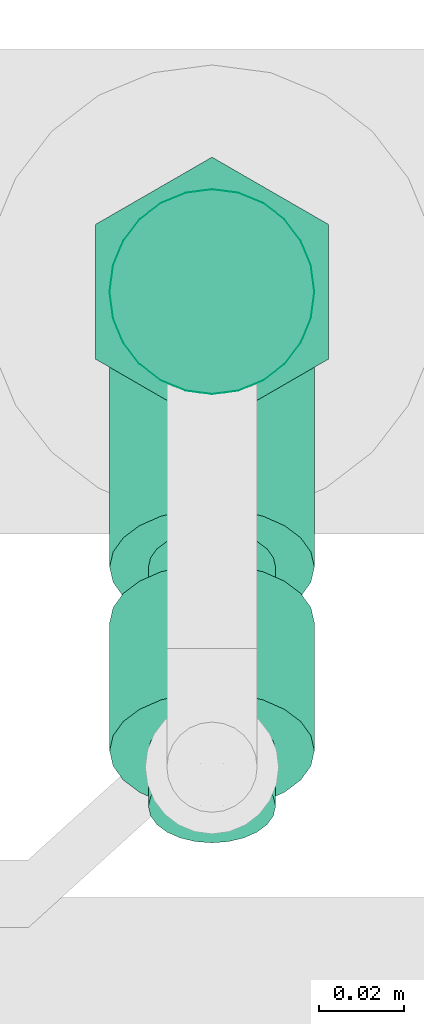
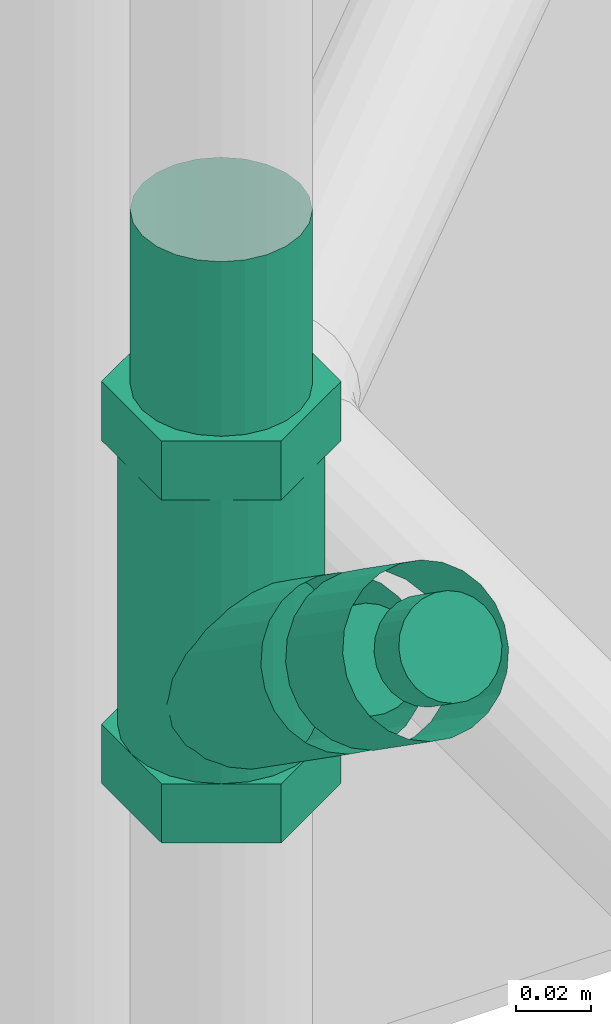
# One storey, part 258 of 374: 1 flow segment, 1 flow treatment device.
"""IFC2X3 building model written with IfcOpenShell, lengths in metres."""

from ifc_helpers import new_model, si_unit, direction, origin, place, context, subcontext, project, spatial, open_shell, surface_model, source, transform, mapped, element, save


model = new_model("IFC2X3")

# Units and contexts
model_context = context("Model", 3, precision=1e-05, world=origin(), true_north=direction((-0.4480736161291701, 0.8939966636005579)))
body_context = subcontext(model_context, "Body", "Model", "MODEL_VIEW")
ifc_project = project(units=[si_unit("LENGTHUNIT", "METRE"), si_unit("AREAUNIT", "SQUARE_METRE"), si_unit("VOLUMEUNIT", "CUBIC_METRE"), si_unit("PLANEANGLEUNIT", "RADIAN"), si_unit("THERMODYNAMICTEMPERATUREUNIT", "KELVIN"), si_unit("MASSUNIT", "GRAM", prefix="KILO"), si_unit("TIMEUNIT", "SECOND")], contexts=[model_context])

# Site, building, storey
site_placement = place(None, origin())
site = spatial("IfcSite", under=ifc_project, at=site_placement, Name="Site 1", CompositionType="ELEMENT")
building_placement = place(site_placement, origin())
building = spatial("IfcBuilding", under=site, at=building_placement, Name="Undefined", CompositionType="ELEMENT")
storey_placement = place(building_placement, origin())
storey = spatial("IfcBuildingStorey", under=building, at=storey_placement, Name="Rez de chauss\x8ee", CompositionType="ELEMENT", Elevation=0.0)

# Flow treatment device
shared_shape_1 = source(origin(), body_context, "Body", "SurfaceModel", [
    surface_model("IfcFaceBasedSurfaceModel", [(0.0, 0.006304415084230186, 7.105427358e-15), (0.0, 0.0, 0.0), (0.034486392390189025, 7.105427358e-15, -1.776356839e-15), (0.03290563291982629, 0.006304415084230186, 0.0), (0.0, -0.006089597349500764, -0.0016317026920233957), (0.039120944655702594, -0.006089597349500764, -0.0016317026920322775), (0.0, -0.011549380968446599, -0.004783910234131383), (0.0464934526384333, -0.011549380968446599, -0.004783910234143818), (0.0, -0.016007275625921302, -0.009241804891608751), (0.056101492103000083, -0.01600727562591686, -0.009241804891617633), (0.0, -0.01915948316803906, -0.014701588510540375), (0.06729029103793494, -0.019159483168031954, -0.014701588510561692), (0.0, -0.020791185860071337, -0.020791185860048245), (0.07929735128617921, -0.02079118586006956, -0.020791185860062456), (0.0, -0.020791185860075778, -0.027095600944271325), (0.07604355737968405, -0.020791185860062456, -0.02709560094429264), (0.0, -0.01915948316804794, -0.03318519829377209), (0.07301150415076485, -0.019159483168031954, -0.03318519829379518), (0.0, -0.01600727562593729, -0.038644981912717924), (0.07040782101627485, -0.01600727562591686, -0.038644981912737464), (0.0, -0.011549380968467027, -0.0431028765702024), (0.06840994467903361, -0.011549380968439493, -0.043102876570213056), (0.0, -0.006089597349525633, -0.04625508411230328), (0.06715402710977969, -0.006089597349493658, -0.04625508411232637), (0.0, -2.4868995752e-14, -0.04788678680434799), (0.06672565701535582, 7.105427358e-15, -0.0478867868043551), (0.0, 0.006304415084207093, -0.047886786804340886), (0.06715402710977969, 0.0063044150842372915, -0.0478867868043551), (0.0, 0.012394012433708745, -0.046255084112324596), (0.06840994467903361, 0.01239401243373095, -0.04625508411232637), (0.0, 0.01785379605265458, -0.0431028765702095), (0.07040782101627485, 0.017853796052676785, -0.04310287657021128), (0.0, 0.022311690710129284, -0.03864498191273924), (0.07301150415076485, 0.022311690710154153, -0.03864498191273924), (0.0, 0.02546389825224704, -0.03318519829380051), (0.07604355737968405, 0.02546389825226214, -0.033185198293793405), (0.0, 0.02709560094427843, -0.027095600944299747), (0.07929735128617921, 0.02709560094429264, -0.027095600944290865), (0.0, 0.02709560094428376, -0.02079118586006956), (0.06729029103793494, 0.02709560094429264, -0.020791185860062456), (0.0, 0.025463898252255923, -0.014701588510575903), (0.056101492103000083, 0.025463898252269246, -0.014701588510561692), (0.0, 0.02231169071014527, -0.009241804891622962), (0.0464934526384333, 0.022311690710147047, -0.009241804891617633), (0.0, 0.01785379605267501, -0.004783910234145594), (0.039120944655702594, 0.01785379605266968, -0.004783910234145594), (0.0, 0.012394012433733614, -0.0016317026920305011), (0.034486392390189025, 0.012394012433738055, -0.0016317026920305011), (0.11106486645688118, -0.026421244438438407, -0.03789037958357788), (0.08505329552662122, -0.02879858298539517, -0.055948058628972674), (0.07409798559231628, -0.026756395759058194, -0.04043610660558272), (0.10010955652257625, -0.02437905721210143, -0.02237842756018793), (0.12407065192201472, 0.0020321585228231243, -0.03245101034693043), (0.1131153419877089, 0.004074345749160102, -0.01693905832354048), (0.11106486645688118, 0.02810822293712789, -0.045069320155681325), (0.10010955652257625, 0.03015041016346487, -0.029557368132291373), (0.08505329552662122, 0.025730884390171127, -0.06312699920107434), (0.07409798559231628, 0.027773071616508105, -0.047615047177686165), (0.07204751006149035, -0.0027225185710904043, -0.06856636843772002), (0.061092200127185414, -0.0006803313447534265, -0.05305441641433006), (0.08710377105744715, 0.028961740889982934, -0.03858620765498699), (0.0812734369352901, 0.02749985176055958, -0.042511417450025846), (0.02861912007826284, 0.037315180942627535, 0.03204340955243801), (0.03444945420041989, 0.03877707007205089, 0.03596861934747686), (0.07584043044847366, 0.02427954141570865, -0.04592451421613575), (0.0231861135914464, 0.034094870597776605, 0.028630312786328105), (0.07117500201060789, 0.0195202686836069, -0.04859290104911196), (0.01852068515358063, 0.029335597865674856, 0.025961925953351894), (0.06759509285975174, 0.01354637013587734, -0.05033473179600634), (0.014940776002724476, 0.023361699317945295, 0.024220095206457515), (0.06534466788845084, 0.006764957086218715, -0.05103130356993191), (0.012690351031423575, 0.01658028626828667, 0.023523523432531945), (0.06457708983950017, -0.00036182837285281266, -0.050635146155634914), (0.011922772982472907, 0.009453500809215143, 0.02391968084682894), (0.06534466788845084, -0.00734830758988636, -0.04917325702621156), (0.012690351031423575, 0.0024670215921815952, 0.025381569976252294), (0.06759509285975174, -0.013718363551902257, -0.04674526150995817), (0.014940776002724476, -0.0039030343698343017, 0.02780956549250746), (0.07117500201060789, -0.019037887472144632, -0.043516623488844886), (0.01852068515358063, -0.009222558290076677, 0.031038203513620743), (0.07584043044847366, -0.02294436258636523, -0.03970736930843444), (0.0231861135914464, -0.013129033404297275, 0.034847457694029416), (0.0812734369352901, -0.025171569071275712, -0.035577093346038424), (0.02861912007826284, -0.015356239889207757, 0.03897773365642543), (0.08710377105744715, -0.025567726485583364, -0.0314072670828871), (0.03444945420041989, -0.01575239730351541, 0.043147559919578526), (0.09293410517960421, -0.024105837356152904, -0.02748205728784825), (0.04027978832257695, -0.014290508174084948, 0.04707276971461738), (0.09836711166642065, -0.020885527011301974, -0.024068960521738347), (0.04571279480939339, -0.011070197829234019, 0.050485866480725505), (0.10303254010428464, -0.016126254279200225, -0.021400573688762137), (0.05037822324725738, -0.0063109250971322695, 0.05315425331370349), (0.10661244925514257, -0.010152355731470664, -0.019658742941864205), (0.05395813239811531, -0.00033702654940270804, 0.05489608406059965), (0.10886287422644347, -0.0033709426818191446, -0.018962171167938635), (0.05620855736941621, 0.006444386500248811, 0.05559265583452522), (0.10963045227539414, 0.0037558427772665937, -0.01935832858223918), (0.05697613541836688, 0.01357117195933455, 0.05519649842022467), (0.10886287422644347, 0.01074232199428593, -0.020820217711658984), (0.05620855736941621, 0.020557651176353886, 0.05373460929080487), (0.10661244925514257, 0.017112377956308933, -0.023248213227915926), (0.05395813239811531, 0.02692770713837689, 0.05130661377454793), (0.10303254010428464, 0.022431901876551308, -0.02647685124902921), (0.05037822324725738, 0.03224723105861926, 0.04807797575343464), (0.09836711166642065, 0.026338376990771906, -0.030286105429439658), (0.04571279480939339, 0.03615370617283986, 0.04426872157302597), (0.09293410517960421, 0.028565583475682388, -0.03441638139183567), (0.04027978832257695, 0.03838091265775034, 0.04013844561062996), (0.04745523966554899, -0.014563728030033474, 0.05217639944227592), (0.021443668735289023, -0.016941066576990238, 0.03411872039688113), (0.010488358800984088, -0.014898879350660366, 0.049630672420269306), (0.03649992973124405, -0.012521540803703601, 0.0676883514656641), (0.060461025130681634, 0.013889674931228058, 0.057615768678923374), (0.0495057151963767, 0.01593186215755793, 0.07312772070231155), (0.04745523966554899, 0.039965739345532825, 0.04499745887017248), (0.03649992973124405, 0.0420079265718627, 0.060509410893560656), (0.021443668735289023, 0.03758840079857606, 0.026939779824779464), (0.010488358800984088, 0.03963058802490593, 0.04245173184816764), (0.008437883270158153, 0.009134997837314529, 0.02150041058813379), (-0.0025174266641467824, 0.011177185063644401, 0.037012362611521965), (-1.776356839e-15, 0.01802388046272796, -0.025901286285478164), (-1.776356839e-15, 0.017010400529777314, -0.02968364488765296), (-0.01600000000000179, 0.017010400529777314, -0.029683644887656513), (-0.01600000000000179, 0.01802388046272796, -0.025901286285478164), (-1.776356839e-15, 0.015052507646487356, -0.033074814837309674), (-0.01600000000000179, 0.015052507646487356, -0.033074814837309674), (8.8817842e-16, 0.012283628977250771, -0.03584369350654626), (-0.016000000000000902, 0.012283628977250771, -0.03584369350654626), (-1.776356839e-15, 0.008892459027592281, -0.037801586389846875), (-0.01600000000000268, 0.008892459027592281, -0.037801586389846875), (-8.8817842e-16, 0.005110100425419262, -0.038815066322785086), (-0.016000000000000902, 0.005110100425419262, -0.038815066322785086), (-8.8817842e-16, 0.0011943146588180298, -0.03881506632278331), (-0.016000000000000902, 0.0011943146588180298, -0.03881506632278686), (-8.8817842e-16, -0.0025880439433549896, -0.03780158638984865), (-0.016000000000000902, -0.0025880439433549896, -0.03780158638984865), (-1.776356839e-15, -0.00597921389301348, -0.03584369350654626), (-0.01600000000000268, -0.00597921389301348, -0.03584369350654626), (8.8817842e-16, -0.00874809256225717, -0.0330748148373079), (-0.016000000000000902, -0.00874809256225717, -0.0330748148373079), (-1.776356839e-15, -0.010705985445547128, -0.029683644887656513), (-0.01600000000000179, -0.010705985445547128, -0.029683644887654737), (-1.776356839e-15, -0.011719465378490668, -0.025901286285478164), (-0.01600000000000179, -0.011719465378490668, -0.02590128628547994), (-1.776356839e-15, -0.011719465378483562, -0.021985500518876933), (-0.01600000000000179, -0.011719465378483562, -0.021985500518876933), (0.0, -0.010705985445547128, -0.018203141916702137), (-0.01600000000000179, -0.010705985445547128, -0.018203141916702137), (-8.8817842e-16, -0.00874809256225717, -0.014811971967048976), (-0.016000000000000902, -0.008748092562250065, -0.014811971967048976), (-2.664535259e-15, -0.00597921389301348, -0.012043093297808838), (-0.01600000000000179, -0.00597921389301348, -0.012043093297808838), (-1.776356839e-15, -0.0025880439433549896, -0.010085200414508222), (-0.01600000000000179, -0.0025880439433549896, -0.010085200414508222), (-2.664535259e-15, 0.0011943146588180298, -0.009071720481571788), (-0.01600000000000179, 0.0011943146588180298, -0.009071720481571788), (-8.8817842e-16, 0.005110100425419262, -0.009071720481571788), (-0.01600000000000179, 0.005110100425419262, -0.009071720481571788), (-2.664535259e-15, 0.008892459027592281, -0.010085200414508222), (-0.01600000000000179, 0.008892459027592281, -0.010085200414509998), (-1.776356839e-15, 0.012283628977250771, -0.012043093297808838), (-0.01600000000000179, 0.012283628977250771, -0.012043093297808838), (-2.664535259e-15, 0.015052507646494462, -0.0148119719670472), (-0.01600000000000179, 0.015052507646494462, -0.014811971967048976), (-8.8817842e-16, 0.01701040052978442, -0.01820314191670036), (-0.016000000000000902, 0.01701040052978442, -0.01820314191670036), (0.0, 0.018023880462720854, -0.021985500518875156), (-0.01600000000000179, 0.018023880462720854, -0.021985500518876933), (-1.776356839e-15, 0.0031522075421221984, -0.02394339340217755), (-0.01600000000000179, 0.0031522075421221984, -0.02394339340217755), (-0.01600000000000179, 0.027095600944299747, -0.02709560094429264), (-0.016000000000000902, 0.02546389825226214, -0.03318519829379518), (-0.05290023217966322, 0.02546389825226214, -0.03318519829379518), (-0.052900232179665, 0.02709560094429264, -0.02709560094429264), (-0.01600000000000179, 0.022311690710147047, -0.038644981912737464), (-0.05290023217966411, 0.022311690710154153, -0.03864498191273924), (-0.01600000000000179, 0.017853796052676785, -0.04310287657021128), (-0.052900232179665, 0.017853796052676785, -0.04310287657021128), (-0.01600000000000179, 0.01239401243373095, -0.04625508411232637), (-0.052900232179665, 0.012394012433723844, -0.04625508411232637), (-0.016000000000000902, 0.006304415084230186, -0.0478867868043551), (-0.05290023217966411, 0.006304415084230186, -0.0478867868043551), (-0.01600000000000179, 7.105427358e-15, -0.0478867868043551), (-0.05290023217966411, 7.105427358e-15, -0.04788678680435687), (-0.016000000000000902, -0.006089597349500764, -0.046255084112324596), (-0.05290023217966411, -0.006089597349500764, -0.04625508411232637), (-0.01600000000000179, -0.011549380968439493, -0.04310287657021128), (-0.052900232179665, -0.011549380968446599, -0.043102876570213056), (-0.01600000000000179, -0.01600727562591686, -0.03864498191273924), (-0.052900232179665, -0.01600727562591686, -0.03864498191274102), (-0.01600000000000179, -0.01915948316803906, -0.03318519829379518), (-0.05290023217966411, -0.019159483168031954, -0.03318519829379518), (-0.016000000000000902, -0.020791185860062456, -0.02709560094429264), (-0.05290023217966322, -0.020791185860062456, -0.02709560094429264), (-0.01600000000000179, -0.020791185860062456, -0.020791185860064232), (-0.052900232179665, -0.02079118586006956, -0.020791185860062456), (-0.01600000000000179, -0.019159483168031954, -0.014701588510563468), (-0.05290023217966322, -0.019159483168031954, -0.014701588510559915), (-0.01600000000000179, -0.01600727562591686, -0.009241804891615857), (-0.052900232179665, -0.01600727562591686, -0.009241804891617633), (-0.016000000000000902, -0.011549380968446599, -0.004783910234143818), (-0.05290023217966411, -0.011549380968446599, -0.004783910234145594), (-0.016000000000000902, -0.006089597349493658, -0.0016317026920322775), (-0.052900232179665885, -0.006089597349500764, -0.0016317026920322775), (-0.015999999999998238, 0.0, 0.0), (-0.052900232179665, 7.105427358e-15, -1.776356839e-15), (-0.01600000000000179, 0.006304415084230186, 0.0), (-0.052900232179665, 0.006304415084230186, -1.776356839e-15), (-0.01600000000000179, 0.012394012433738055, -0.0016317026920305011), (-0.052900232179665, 0.012394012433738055, -0.0016317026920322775), (-0.016000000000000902, 0.017853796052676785, -0.004783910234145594), (-0.052900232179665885, 0.01785379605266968, -0.004783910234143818), (-0.016000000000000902, 0.022311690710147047, -0.009241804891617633), (-0.05290023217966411, 0.022311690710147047, -0.009241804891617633), (-0.01600000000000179, 0.025463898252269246, -0.014701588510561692), (-0.052900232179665, 0.025463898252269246, -0.014701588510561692), (-0.01600000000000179, 0.02709560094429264, -0.020791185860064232), (-0.05290023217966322, 0.02709560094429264, -0.020791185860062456), (-0.052900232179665, 0.018023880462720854, -0.025901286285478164), (-0.05290023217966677, 0.017010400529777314, -0.029683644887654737), (-0.06890023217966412, 0.017010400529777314, -0.029683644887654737), (-0.0689002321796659, 0.018023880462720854, -0.02590128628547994), (-0.052900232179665, 0.015052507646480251, -0.033074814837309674), (-0.06890023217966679, 0.015052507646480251, -0.03307481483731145), (-0.05290023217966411, 0.012283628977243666, -0.035843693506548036), (-0.06890023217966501, 0.012283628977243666, -0.035843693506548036), (-0.052900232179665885, 0.008892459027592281, -0.03780158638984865), (-0.0689002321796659, 0.008892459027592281, -0.03780158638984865), (-0.05290023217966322, 0.005110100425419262, -0.03881506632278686), (-0.06890023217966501, 0.005110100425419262, -0.03881506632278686), (-0.05290023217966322, 0.0011943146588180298, -0.03881506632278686), (-0.06890023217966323, 0.0011943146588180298, -0.03881506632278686), (-0.05290023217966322, -0.0025880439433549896, -0.03780158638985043), (-0.06890023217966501, -0.0025880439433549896, -0.03780158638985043), (-0.052900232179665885, -0.00597921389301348, -0.035843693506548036), (-0.0689002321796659, -0.00597921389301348, -0.035843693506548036), (-0.05290023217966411, -0.00874809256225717, -0.033074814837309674), (-0.06890023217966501, -0.008748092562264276, -0.033074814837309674), (-0.052900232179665, -0.010705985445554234, -0.029683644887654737), (-0.06890023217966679, -0.010705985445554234, -0.029683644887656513), (-0.05290023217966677, -0.011719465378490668, -0.02590128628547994), (-0.06890023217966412, -0.011719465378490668, -0.025901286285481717), (-0.052900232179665, -0.011719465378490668, -0.021985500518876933), (-0.0689002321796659, -0.011719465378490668, -0.02198550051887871), (-0.052900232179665, -0.010705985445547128, -0.018203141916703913), (-0.0689002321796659, -0.010705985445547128, -0.018203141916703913), (-0.052900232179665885, -0.00874809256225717, -0.014811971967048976), (-0.06890023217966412, -0.00874809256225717, -0.014811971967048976), (-0.052900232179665, -0.005979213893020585, -0.012043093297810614), (-0.06890023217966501, -0.005979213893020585, -0.012043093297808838), (-0.052900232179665, -0.0025880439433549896, -0.010085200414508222), (-0.06890023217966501, -0.0025880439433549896, -0.010085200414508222), (-0.052900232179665, 0.0011943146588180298, -0.009071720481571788), (-0.06890023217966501, 0.0011943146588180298, -0.009071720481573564), (-0.052900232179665, 0.005110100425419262, -0.009071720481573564), (-0.06890023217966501, 0.005110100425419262, -0.009071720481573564), (-0.052900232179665, 0.008892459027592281, -0.010085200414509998), (-0.06890023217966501, 0.008892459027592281, -0.010085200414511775), (-0.052900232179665, 0.012283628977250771, -0.012043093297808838), (-0.06890023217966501, 0.012283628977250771, -0.012043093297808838), (-0.052900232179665, 0.015052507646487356, -0.014811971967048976), (-0.06890023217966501, 0.015052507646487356, -0.014811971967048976), (-0.052900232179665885, 0.017010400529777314, -0.01820314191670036), (-0.06890023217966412, 0.017010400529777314, -0.018203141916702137), (-0.052900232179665, 0.018023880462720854, -0.021985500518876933), (-0.0689002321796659, 0.018023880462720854, -0.02198550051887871), (-0.052900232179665, 0.003152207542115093, -0.02394339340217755), (-0.0689002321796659, 0.003152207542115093, -0.023943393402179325)], [open_shell([[[0, 1, 2, 3]], [[1, 4, 5, 2]], [[4, 6, 7, 5]], [[6, 8, 9, 7]], [[8, 10, 11, 9]], [[10, 12, 13, 11]], [[12, 14, 15, 13]], [[14, 16, 17, 15]], [[16, 18, 19, 17]], [[18, 20, 21, 19]], [[20, 22, 23, 21]], [[22, 24, 25, 23]], [[24, 26, 27, 25]], [[26, 28, 29, 27]], [[28, 30, 31, 29]], [[30, 32, 33, 31]], [[32, 34, 35, 33]], [[34, 36, 37, 35]], [[36, 38, 39, 37]], [[38, 40, 41, 39]], [[40, 42, 43, 41]], [[42, 44, 45, 43]], [[44, 46, 47, 45]], [[46, 0, 3, 47]], [[48, 49, 50, 51]], [[52, 48, 51, 53]], [[54, 52, 53, 55]], [[56, 54, 55, 57]], [[58, 56, 57, 59]], [[49, 58, 59, 50]], [[49, 48, 52]], [[49, 52, 54]], [[49, 54, 56]], [[49, 56, 58]], [[50, 53, 51]], [[50, 55, 53]], [[50, 57, 55]], [[50, 59, 57]], [[60, 61, 62, 63]], [[61, 64, 65, 62]], [[64, 66, 67, 65]], [[66, 68, 69, 67]], [[68, 70, 71, 69]], [[70, 72, 73, 71]], [[72, 74, 75, 73]], [[74, 76, 77, 75]], [[76, 78, 79, 77]], [[78, 80, 81, 79]], [[80, 82, 83, 81]], [[82, 84, 85, 83]], [[84, 86, 87, 85]], [[86, 88, 89, 87]], [[88, 90, 91, 89]], [[90, 92, 93, 91]], [[92, 94, 95, 93]], [[94, 96, 97, 95]], [[96, 98, 99, 97]], [[98, 100, 101, 99]], [[100, 102, 103, 101]], [[102, 104, 105, 103]], [[104, 106, 107, 105]], [[106, 60, 63, 107]], [[108, 109, 110, 111]], [[112, 108, 111, 113]], [[114, 112, 113, 115]], [[116, 114, 115, 117]], [[118, 116, 117, 119]], [[109, 118, 119, 110]], [[109, 108, 112]], [[109, 112, 114]], [[109, 114, 116]], [[109, 116, 118]], [[110, 113, 111]], [[110, 115, 113]], [[110, 117, 115]], [[110, 119, 117]], [[120, 121, 122, 123]], [[121, 124, 125, 122]], [[124, 126, 127, 125]], [[126, 128, 129, 127]], [[128, 130, 131, 129]], [[130, 132, 133, 131]], [[132, 134, 135, 133]], [[134, 136, 137, 135]], [[136, 138, 139, 137]], [[138, 140, 141, 139]], [[140, 142, 143, 141]], [[142, 144, 145, 143]], [[144, 146, 147, 145]], [[146, 148, 149, 147]], [[148, 150, 151, 149]], [[150, 152, 153, 151]], [[152, 154, 155, 153]], [[154, 156, 157, 155]], [[156, 158, 159, 157]], [[158, 160, 161, 159]], [[160, 162, 163, 161]], [[162, 164, 165, 163]], [[164, 166, 167, 165]], [[166, 120, 123, 167]], [[168, 121, 120]], [[168, 124, 121]], [[168, 126, 124]], [[168, 128, 126]], [[168, 130, 128]], [[168, 132, 130]], [[168, 134, 132]], [[168, 136, 134]], [[168, 138, 136]], [[168, 140, 138]], [[168, 142, 140]], [[168, 144, 142]], [[168, 146, 144]], [[168, 148, 146]], [[168, 150, 148]], [[168, 152, 150]], [[168, 154, 152]], [[168, 156, 154]], [[168, 158, 156]], [[168, 160, 158]], [[168, 162, 160]], [[168, 164, 162]], [[168, 166, 164]], [[168, 120, 166]], [[169, 167, 123]], [[169, 165, 167]], [[169, 163, 165]], [[169, 161, 163]], [[169, 159, 161]], [[169, 157, 159]], [[169, 155, 157]], [[169, 153, 155]], [[169, 151, 153]], [[169, 149, 151]], [[169, 147, 149]], [[169, 145, 147]], [[169, 143, 145]], [[169, 141, 143]], [[169, 139, 141]], [[169, 137, 139]], [[169, 135, 137]], [[169, 133, 135]], [[169, 131, 133]], [[169, 129, 131]], [[169, 127, 129]], [[169, 125, 127]], [[169, 122, 125]], [[169, 123, 122]], [[170, 171, 172, 173]], [[171, 174, 175, 172]], [[174, 176, 177, 175]], [[176, 178, 179, 177]], [[178, 180, 181, 179]], [[180, 182, 183, 181]], [[182, 184, 185, 183]], [[184, 186, 187, 185]], [[186, 188, 189, 187]], [[188, 190, 191, 189]], [[190, 192, 193, 191]], [[192, 194, 195, 193]], [[194, 196, 197, 195]], [[196, 198, 199, 197]], [[198, 200, 201, 199]], [[200, 202, 203, 201]], [[202, 204, 205, 203]], [[204, 206, 207, 205]], [[206, 208, 209, 207]], [[208, 210, 211, 209]], [[210, 212, 213, 211]], [[212, 214, 215, 213]], [[214, 216, 217, 215]], [[216, 170, 173, 217]], [[218, 219, 220, 221]], [[219, 222, 223, 220]], [[222, 224, 225, 223]], [[224, 226, 227, 225]], [[226, 228, 229, 227]], [[228, 230, 231, 229]], [[230, 232, 233, 231]], [[232, 234, 235, 233]], [[234, 236, 237, 235]], [[236, 238, 239, 237]], [[238, 240, 241, 239]], [[240, 242, 243, 241]], [[242, 244, 245, 243]], [[244, 246, 247, 245]], [[246, 248, 249, 247]], [[248, 250, 251, 249]], [[250, 252, 253, 251]], [[252, 254, 255, 253]], [[254, 256, 257, 255]], [[256, 258, 259, 257]], [[258, 260, 261, 259]], [[260, 262, 263, 261]], [[262, 264, 265, 263]], [[264, 218, 221, 265]], [[266, 219, 218]], [[266, 222, 219]], [[266, 224, 222]], [[266, 226, 224]], [[266, 228, 226]], [[266, 230, 228]], [[266, 232, 230]], [[266, 234, 232]], [[266, 236, 234]], [[266, 238, 236]], [[266, 240, 238]], [[266, 242, 240]], [[266, 244, 242]], [[266, 246, 244]], [[266, 248, 246]], [[266, 250, 248]], [[266, 252, 250]], [[266, 254, 252]], [[266, 256, 254]], [[266, 258, 256]], [[266, 260, 258]], [[266, 262, 260]], [[266, 264, 262]], [[266, 218, 264]], [[267, 265, 221]], [[267, 263, 265]], [[267, 261, 263]], [[267, 259, 261]], [[267, 257, 259]], [[267, 255, 257]], [[267, 253, 255]], [[267, 251, 253]], [[267, 249, 251]], [[267, 247, 249]], [[267, 245, 247]], [[267, 243, 245]], [[267, 241, 243]], [[267, 239, 241]], [[267, 237, 239]], [[267, 235, 237]], [[267, 233, 235]], [[267, 231, 233]], [[267, 229, 231]], [[267, 227, 229]], [[267, 225, 227]], [[267, 223, 225]], [[267, 220, 223]], [[267, 221, 220]]])]),
])
flow_treatment_device_placement = place(storey_placement, origin())
element("IfcFlowTreatmentDevice", 1, at=flow_treatment_device_placement, inside=storey, Name="Filtre en Y", ObjectType="Filtre en Y", context=body_context, shape_type="MappedRepresentation", body=[
    mapped(shared_shape_1, transform((52.66381249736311, 10.866460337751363, 1.7816701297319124), x_axis=(0.0, 0.8191520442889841, -0.5735764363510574), y_axis=(-0.9914448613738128, 0.07486674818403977, 0.10692079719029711), z_axis=(0.13052619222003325, 0.5686694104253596, 0.812144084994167))),
])

# Flow segment
shared_shape_2 = source(origin(), body_context, "Body", "SurfaceModel", [
    surface_model("IfcFaceBasedSurfaceModel", [(0.0, 0.006304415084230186, 7.105427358e-15), (0.0, 0.0, 0.0), (0.07472982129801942, -8.8817842e-16, 0.0), (0.07472982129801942, 0.00630441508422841, 0.0), (0.0, -0.006089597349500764, -0.0016317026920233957), (0.07472982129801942, -0.006089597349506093, -0.0016317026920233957), (0.0, -0.011549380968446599, -0.004783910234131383), (0.07472982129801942, -0.011549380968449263, -0.004783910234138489), (0.0, -0.016007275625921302, -0.009241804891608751), (0.07472982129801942, -0.01600727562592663, -0.009241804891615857), (0.0, -0.01915948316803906, -0.014701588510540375), (0.07472982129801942, -0.019159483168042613, -0.01470158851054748), (0.0, -0.020791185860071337, -0.020791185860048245), (0.07472982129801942, -0.02079118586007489, -0.020791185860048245), (0.0, -0.020791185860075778, -0.027095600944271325), (0.07472982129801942, -0.02079118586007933, -0.02709560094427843), (0.0, -0.01915948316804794, -0.03318519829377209), (0.07472982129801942, -0.01915948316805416, -0.0331851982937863), (0.0, -0.01600727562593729, -0.038644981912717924), (0.07472982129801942, -0.016007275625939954, -0.038644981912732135), (0.0, -0.011549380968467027, -0.0431028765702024), (0.07472982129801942, -0.011549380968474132, -0.0431028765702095), (0.0, -0.006089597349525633, -0.04625508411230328), (0.07472982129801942, -0.006089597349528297, -0.046255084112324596), (0.0, -2.4868995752e-14, -0.04788678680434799), (0.07472982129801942, -2.6645352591e-14, -0.0478867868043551), (0.0, 0.006304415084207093, -0.047886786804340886), (0.07472982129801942, 0.006304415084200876, -0.0478867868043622), (0.0, 0.012394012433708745, -0.046255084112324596), (0.07472982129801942, 0.012394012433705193, -0.04625508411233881), (0.0, 0.01785379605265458, -0.0431028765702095), (0.07472982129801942, 0.01785379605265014, -0.043102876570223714), (0.0, 0.022311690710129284, -0.03864498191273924), (0.07472982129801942, 0.02231169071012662, -0.03864498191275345), (0.0, 0.02546389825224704, -0.03318519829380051), (0.07472982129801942, 0.02546389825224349, -0.033185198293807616), (0.0, 0.02709560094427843, -0.027095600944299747), (0.07472982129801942, 0.027095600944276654, -0.027095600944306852), (0.0, 0.02709560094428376, -0.02079118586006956), (0.07472982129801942, 0.027095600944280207, -0.020791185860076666), (0.0, 0.025463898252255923, -0.014701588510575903), (0.07472982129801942, 0.025463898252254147, -0.014701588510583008), (0.0, 0.02231169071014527, -0.009241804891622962), (0.07472982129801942, 0.02231169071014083, -0.009241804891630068), (0.0, 0.01785379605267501, -0.004783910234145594), (0.07472982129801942, 0.017853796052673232, -0.0047839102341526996), (0.0, 0.012394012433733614, -0.0016317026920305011), (0.07472982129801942, 0.012394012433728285, -0.0016317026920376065)], [open_shell([[[0, 1, 2, 3]], [[1, 4, 5, 2]], [[4, 6, 7, 5]], [[6, 8, 9, 7]], [[8, 10, 11, 9]], [[10, 12, 13, 11]], [[12, 14, 15, 13]], [[14, 16, 17, 15]], [[16, 18, 19, 17]], [[18, 20, 21, 19]], [[20, 22, 23, 21]], [[22, 24, 25, 23]], [[24, 26, 27, 25]], [[26, 28, 29, 27]], [[28, 30, 31, 29]], [[30, 32, 33, 31]], [[32, 34, 35, 33]], [[34, 36, 37, 35]], [[36, 38, 39, 37]], [[38, 40, 41, 39]], [[40, 42, 43, 41]], [[42, 44, 45, 43]], [[44, 46, 47, 45]], [[46, 0, 3, 47]]])]),
])
flow_segment_placement = place(storey_placement, origin())
element("IfcFlowSegment", 2, at=flow_segment_placement, inside=storey, Name="Tube acier d'après DIN 2448", ObjectType="Tube acier d'après DIN 2448", context=body_context, shape_type="MappedRepresentation", body=[
    mapped(shared_shape_2, transform((52.63423490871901, 10.911786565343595, 1.7952685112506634), x_axis=(0.0, 0.0, 1.0), y_axis=(-0.13052619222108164, 0.9914448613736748, 0.0), z_axis=(-0.9914448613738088, -0.13052619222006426, 0.0))),
])

save(model, "model.ifc")
